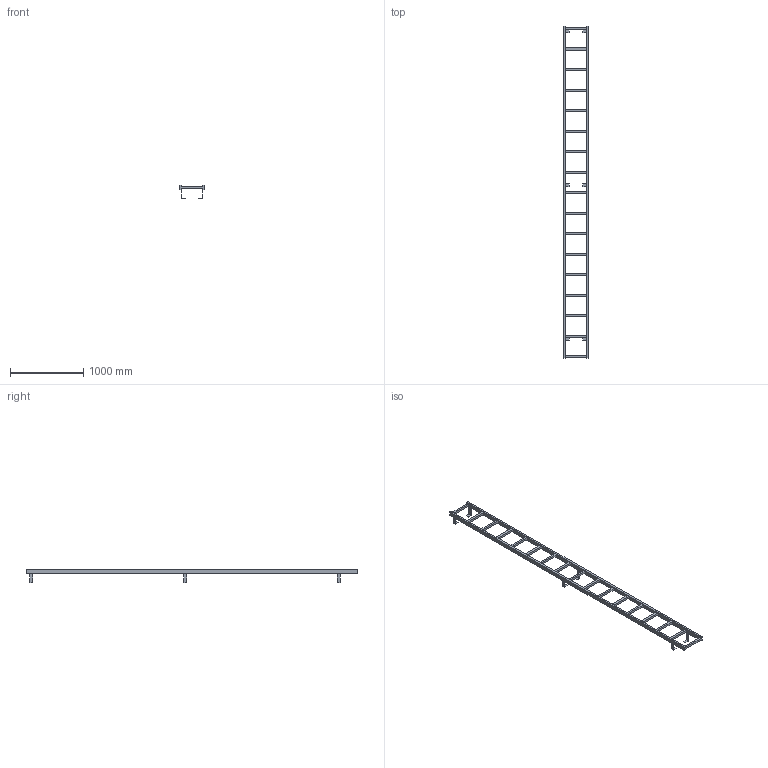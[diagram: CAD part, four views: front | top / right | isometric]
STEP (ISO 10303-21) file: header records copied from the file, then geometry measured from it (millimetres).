
FILE_DESCRIPTION((''),'2;1');
FILE_NAME('017_000109','2017-06-12T',('set'),('HUBER SE'),'PRO/ENGINEER BY PARAMETRIC TECHNOLOGY CORPORATION, 2015280','PRO/ENGINEER BY PARAMETRIC TECHNOLOGY CORPORATION, 2015280','');
FILE_SCHEMA(('CONFIG_CONTROL_DESIGN'));
Length unit declared in the file: millimetre
Products named in the file (1): 017_000109
Bounding box: 350 x 4530 x 178.5 mm (x, y, z)
Volume: 17597940 mm3; surface area: 2162292 mm2
Topology: 1 solids, 1 shells, 126 faces, 469 edges, 341 vertices
Faces by surface type: plane 126
Entity records: 4858 total; most frequent: CARTESIAN_POINT 994, ORIENTED_EDGE 736, DIRECTION 710, VECTOR 422, LINE 422, EDGE_CURVE 368, VERTEX_POINT 240, EDGE_LOOP 154
